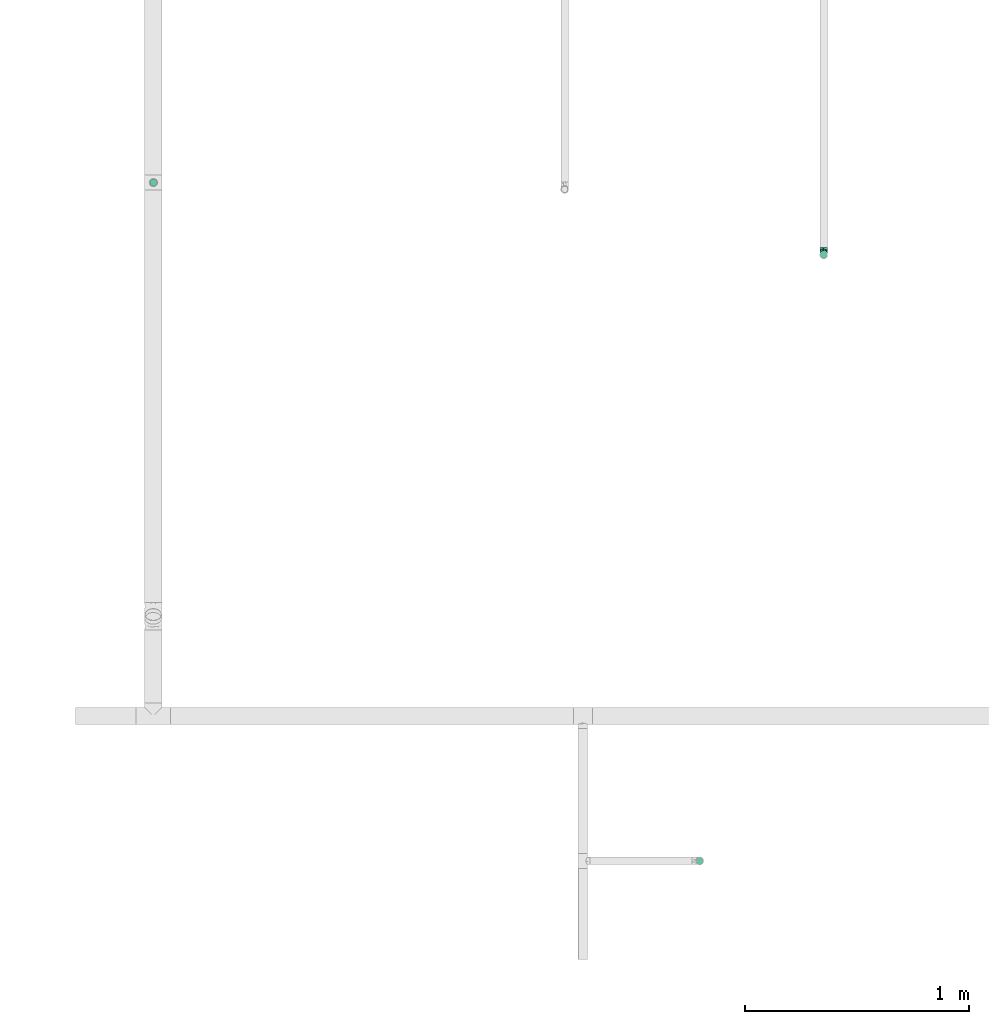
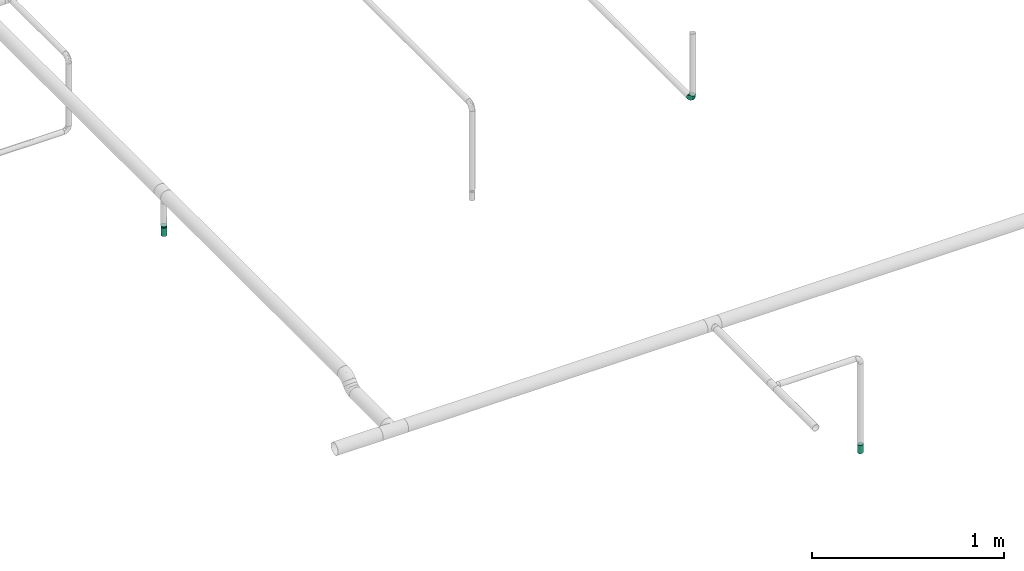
# One storey, part 38 of 95: 2 flow fittings, 2 flow terminals.
"""IFC2X3 building model written with IfcOpenShell, lengths in millimetres."""

import ifcopenshell
import ifcopenshell.guid

model = None  # the IFC model being written
_history = None  # IfcOwnerHistory: only IFC2X3 demands one
_inside = {}  # id of a spatial element -> (the spatial element, [elements in it])
_under = {}  # id of a project, library or spatial element -> (it, [spatial elements below it])
_declared = {}  # id of a project -> (the project, [libraries it declares])
_typed = {}  # id of a type object -> (the type object, [elements of that type])
_made_of = {}  # id of a material, layer set ... -> (it, [elements and type objects made of it])


def new_model(schema):
    """Start an empty IFC model of exactly this schema.

    Asked for "IFC4X3", IfcOpenShell would pick the latest addendum, in which some entities
    have other attributes; the version numbers below select the first issue.
    IFC2X3 requires an IfcOwnerHistory on every rooted entity: one is made here for all.
    """
    global model, _history
    if schema == "IFC4X3":
        model = ifcopenshell.file(schema_version=(4, 3, 0, 0))
    else:
        model = ifcopenshell.file(schema=schema)
    _inside.clear()
    _under.clear()
    _declared.clear()
    _typed.clear()
    _made_of.clear()
    _history = None
    if model.schema == "IFC2X3":
        org = make("IfcOrganization", Name="unknown")
        user = make(
            "IfcPersonAndOrganization",
            ThePerson=make("IfcPerson", FamilyName="unknown"),
            TheOrganization=org,
        )
        app = make(
            "IfcApplication",
            ApplicationDeveloper=org,
            Version="unknown",
            ApplicationFullName="unknown",
            ApplicationIdentifier="unknown",
        )
        _history = make(
            "IfcOwnerHistory",
            OwningUser=user,
            OwningApplication=app,
            ChangeAction="ADDED",
            CreationDate=0,
        )
    return model


def make(cls, **values):
    """One entity of the class cls with the attributes given. An attribute that is None is left unset."""
    return model.create_entity(
        cls, **{name: value for name, value in values.items() if value is not None}
    )


def entity(cls, *values):
    """Any entity or typed value of the class cls, its attributes in the order of the schema. None: left unset."""
    e = model.create_entity(cls)
    for i, value in enumerate(values):
        if value is not None:
            e[i] = value
    return e


def rooted(cls, **values):
    """An entity with a GlobalId (a new one), such as an element, a storey or a relation."""
    return make(cls, GlobalId=ifcopenshell.guid.new(), OwnerHistory=_history, **values)


def si_unit(unit_type, name, prefix=None):
    """IfcSIUnit, for example si_unit("LENGTHUNIT", "METRE", prefix="MILLI")."""
    return make("IfcSIUnit", UnitType=unit_type, Prefix=prefix, Name=name)


def converted_unit(unit_type, name, factor, base, dimensions=None, offset=None):
    """IfcConversionBasedUnit, such as the inch: factor (a typed value) times the base unit."""
    return make(
        "IfcConversionBasedUnit"
        if offset is None
        else "IfcConversionBasedUnitWithOffset",
        ConversionOffset=offset,
        Dimensions=None
        if dimensions is None
        else entity("IfcDimensionalExponents", *dimensions),
        UnitType=unit_type,
        Name=name,
        ConversionFactor=make(
            "IfcMeasureWithUnit", ValueComponent=factor, UnitComponent=base
        ),
    )


def derived_unit(unit_type, elements):
    """IfcDerivedUnit: a product of units, each with its exponent."""
    return make(
        "IfcDerivedUnit",
        Elements=[
            make("IfcDerivedUnitElement", Unit=unit, Exponent=power)
            for unit, power in elements
        ],
        UnitType=unit_type,
    )


def assignment(units):
    """IfcUnitAssignment: the units of a project."""
    return None if units is None else make("IfcUnitAssignment", Units=units)


def point(xyz):
    """IfcCartesianPoint."""
    return None if xyz is None else make("IfcCartesianPoint", Coordinates=xyz)


def direction(xyz):
    """IfcDirection."""
    return None if xyz is None else make("IfcDirection", DirectionRatios=xyz)


def frame(location, z_axis=None, x_axis=None):
    """IfcAxis2Placement3D, a coordinate frame: its origin and axes. An axis left out is left unset."""
    return make(
        "IfcAxis2Placement3D",
        Location=point(location),
        Axis=direction(z_axis),
        RefDirection=direction(x_axis),
    )


def origin_with_axes():
    """The frame at (0, 0, 0) with the z axis (0, 0, 1) and the x axis (1, 0, 0) written out."""
    return frame((0.0, 0.0, 0.0), z_axis=(0.0, 0.0, 1.0), x_axis=(1.0, 0.0, 0.0))


def place(relative_to, where):
    """IfcLocalPlacement: puts the frame where relative to a parent placement (None: the world)."""
    return make(
        "IfcLocalPlacement", PlacementRelTo=relative_to, RelativePlacement=where
    )


def context(
    kind, dimensions, precision=None, world=None, true_north=None, identifier=None
):
    """IfcGeometricRepresentationContext, for example the 3D "Model" context."""
    return make(
        "IfcGeometricRepresentationContext",
        ContextIdentifier=identifier,
        ContextType=kind,
        CoordinateSpaceDimension=dimensions,
        Precision=precision,
        WorldCoordinateSystem=world,
        TrueNorth=true_north,
    )


def subcontext(parent, identifier, kind, view, scale=None):
    """IfcGeometricRepresentationSubContext, for example "Body" below "Model"."""
    return make(
        "IfcGeometricRepresentationSubContext",
        ContextIdentifier=identifier,
        ContextType=kind,
        ParentContext=parent,
        TargetScale=scale,
        TargetView=view,
    )


def project(units=None, contexts=None):
    """IfcProject with its units and contexts."""
    return rooted(
        "IfcProject",
        Name="project",
        RepresentationContexts=contexts,
        UnitsInContext=assignment(units),
    )


def spatial(cls, under=None, at=None, **own):
    """A site, building, storey or space (cls), placed at a placement, below another one or the project."""
    s = rooted(cls, ObjectPlacement=at, **own)
    if under is not None:
        _under.setdefault(under.id(), (under, []))[1].append(s)
    return s


def faces_of(points, faces, orient=None, outer=None):
    """IfcFace entities. A face is a list of loops; a loop is a list of indices into points, from 0.

    orient and outer hold one flag for each loop. By default every Orientation is true, the
    first loop of a face is its IfcFaceOuterBound and the others are IfcFaceBound.
    """
    made = []
    for i, loops in enumerate(faces):
        bounds = []
        for j, loop in enumerate(loops):
            is_outer = j == 0 if outer is None else outer[i][j]
            bounds.append(
                make(
                    "IfcFaceOuterBound" if is_outer else "IfcFaceBound",
                    Bound=make("IfcPolyLoop", Polygon=[points[k] for k in loop]),
                    Orientation=True if orient is None else orient[i][j],
                )
            )
        made.append(make("IfcFace", Bounds=bounds))
    return made


def open_shell(faces, orient=None, outer=None):
    """The faces of one IfcOpenShell. surface_model builds it on its shared points."""
    return ("IfcOpenShell", faces, orient, outer)


def surface_model(cls, points, shells):
    """IfcFaceBasedSurfaceModel or IfcShellBasedSurfaceModel (cls): surfaces that need not close."""
    shared = [point(p) for p in points]
    made = [make(c, CfsFaces=faces_of(shared, fs, o, b)) for c, fs, o, b in shells]
    if cls == "IfcFaceBasedSurfaceModel":
        return make(cls, FbsmFaces=made)
    return make(cls, SbsmBoundary=made)


def shape(context_of_items, identifier, shape_type, items):
    """IfcShapeRepresentation: the items that make up one representation, for example the "Body"."""
    return make(
        "IfcShapeRepresentation",
        ContextOfItems=context_of_items,
        RepresentationIdentifier=identifier,
        RepresentationType=shape_type,
        Items=items,
    )


def source(mapping_origin, context_of_items, identifier, shape_type, items):
    """IfcRepresentationMap: a shape defined once, which mapped items show again and again."""
    return make(
        "IfcRepresentationMap",
        MappingOrigin=mapping_origin,
        MappedRepresentation=shape(context_of_items, identifier, shape_type, items),
    )


def transform(
    local_origin,
    x_axis=None,
    y_axis=None,
    z_axis=None,
    scale=None,
    scale2=None,
    scale3=None,
    uniform=True,
):
    """IfcCartesianTransformationOperator3D, or its non-uniform kind. x_axis, y_axis, z_axis: its Axis1, 2, 3."""
    if uniform:
        return make(
            "IfcCartesianTransformationOperator3D",
            Axis1=direction(x_axis),
            Axis2=direction(y_axis),
            LocalOrigin=point(local_origin),
            Scale=scale,
            Axis3=direction(z_axis),
        )
    return make(
        "IfcCartesianTransformationOperator3DnonUniform",
        Axis1=direction(x_axis),
        Axis2=direction(y_axis),
        LocalOrigin=point(local_origin),
        Scale=scale,
        Axis3=direction(z_axis),
        Scale2=scale2,
        Scale3=scale3,
    )


def mapped(mapping_source, mapping_target):
    """IfcMappedItem: shows the shape of a source again, moved by a transform."""
    return make(
        "IfcMappedItem", MappingSource=mapping_source, MappingTarget=mapping_target
    )


def made_of(thing, what):
    """Note that an element or type object is made of a material, layer set ...; save() writes the relation."""
    if what is not None:
        _made_of.setdefault(what.id(), (what, []))[1].append(thing)
    return thing


def type_object(cls, material=None, **own):
    """A type object (cls), such as IfcWallType, which elements share."""
    return made_of(rooted(cls, **own), material)


def element(
    cls,
    number,
    at=None,
    inside=None,
    cuts=None,
    type_object=None,
    material=None,
    context=None,
    identifier="Body",
    shape_type=None,
    held_by="IfcProductDefinitionShape",
    body=None,
    shapes=None,
    **own,
):
    """One element of the class cls, such as IfcWall. Its Tag is "e" and its number.

    at: its placement. inside: the storey or other place that contains it. cuts: it is an
    opening in that element (IfcRelVoidsElement). A single representation is given by context,
    identifier, shape_type and body (its items); several are given by shapes. held_by: the class
    of the entity that holds the representations. save() writes the other relations.
    """
    e = rooted(cls, Tag="e%d" % number, ObjectPlacement=at, **own)
    if body is not None:
        shapes = [shape(context, identifier, shape_type, body)]
    if shapes is not None:
        e.Representation = make(held_by, Representations=shapes)
    if inside is not None:
        _inside.setdefault(inside.id(), (inside, []))[1].append(e)
    if cuts is not None:
        rooted(
            "IfcRelVoidsElement", RelatingBuildingElement=cuts, RelatedOpeningElement=e
        )
    if type_object is not None:
        _typed.setdefault(type_object.id(), (type_object, []))[1].append(e)
    return made_of(e, material)


def aggregate(whole, parts):
    """IfcRelAggregates: a whole, such as a stair, and the parts it consists of."""
    return rooted("IfcRelAggregates", RelatingObject=whole, RelatedObjects=parts)


def save(model, path):
    """Write the relations noted so far, then the file.

    IfcRelAggregates (storeys below a building ...), IfcRelContainedInSpatialStructure (elements
    in a storey), IfcRelDefinesByType, IfcRelAssociatesMaterial and IfcRelDeclares: one each for
    every whole, place, type object, material and project.
    """
    for whole, parts in _under.values():
        aggregate(whole, parts)
    for where, things in _inside.values():
        rooted(
            "IfcRelContainedInSpatialStructure",
            RelatedElements=things,
            RelatingStructure=where,
        )
    for kind, things in _typed.values():
        rooted("IfcRelDefinesByType", RelatedObjects=things, RelatingType=kind)
    for what, things in _made_of.values():
        rooted("IfcRelAssociatesMaterial", RelatedObjects=things, RelatingMaterial=what)
    for by, libraries in _declared.values():
        rooted("IfcRelDeclares", RelatingContext=by, RelatedDefinitions=libraries)
    model.write(path)


model = new_model("IFC2X3")

# Units and contexts
model_context = context("Model", 3, precision=0.01, world=frame((0.0, 4.29681676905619e-09, 0.0)), true_north=direction((4.01073788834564e-13, 1.0)))
plan_context = context("Plan", 3, precision=0.01, world=frame((0.0, 4.29681676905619e-09, 0.0)), true_north=direction((4.01073788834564e-13, 1.0)))
body_context = subcontext(model_context, "Body", "Model", "MODEL_VIEW")
ifc_project = project(units=[converted_unit("PLANEANGLEUNIT", "DEGREE", entity("IfcPositiveLengthMeasure", 0.0174532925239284), si_unit("PLANEANGLEUNIT", "RADIAN"), dimensions=[0, 0, 0, 0, 0, 0, 0]), si_unit("AREAUNIT", "SQUARE_METRE"), si_unit("LENGTHUNIT", "METRE", prefix="MILLI"), si_unit("MASSUNIT", "GRAM", prefix="KILO"), si_unit("POWERUNIT", "WATT"), si_unit("PRESSUREUNIT", "PASCAL"), si_unit("FORCEUNIT", "NEWTON", prefix="KILO"), si_unit("ELECTRICVOLTAGEUNIT", "VOLT"), si_unit("ELECTRICCURRENTUNIT", "AMPERE"), si_unit("THERMODYNAMICTEMPERATUREUNIT", "DEGREE_CELSIUS"), si_unit("TIMEUNIT", "SECOND"), si_unit("VOLUMEUNIT", "CUBIC_METRE"), derived_unit("LINEARVELOCITYUNIT", [(si_unit("LENGTHUNIT", "METRE"), 1), (si_unit("TIMEUNIT", "SECOND"), -1)]), derived_unit("VOLUMETRICFLOWRATEUNIT", [(si_unit("VOLUMEUNIT", "CUBIC_METRE"), 1), (si_unit("TIMEUNIT", "SECOND"), -1)]), derived_unit("THERMALTRANSMITTANCEUNIT", [(si_unit("POWERUNIT", "WATT"), 1), (si_unit("THERMODYNAMICTEMPERATUREUNIT", "KELVIN"), -1), (si_unit("AREAUNIT", "SQUARE_METRE"), -1)]), derived_unit("SOUNDPRESSUREUNIT", [(si_unit("PRESSUREUNIT", "PASCAL"), 1)])], contexts=[model_context, plan_context])

# Site, building, storey
site_placement = place(None, frame((0.0, -4.29681676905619e-09, 0.0), z_axis=(0.0, 0.0, 1.0), x_axis=(1.0, 0.0, 0.0)))
site = spatial("IfcSite", under=ifc_project, at=site_placement, CompositionType="ELEMENT")
building_placement = place(site_placement, frame((0.0, 4.29681676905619e-09, 0.0), z_axis=(0.0, 0.0, 1.0), x_axis=(1.0, 0.0, 0.0)))
building = spatial("IfcBuilding", under=site, at=building_placement, Name="mc-building", CompositionType="ELEMENT")
storey_placement = place(building_placement, frame((0.0, 0.0, 210900.0), z_axis=(0.0, 0.0, 1.0), x_axis=(1.0, 0.0, 0.0)))
storey = spatial("IfcBuildingStorey", under=building, at=storey_placement, Name="Nivå F", CompositionType="ELEMENT", Elevation=210900.0)

# Flow fittings
pipe_fitting_type_1 = type_object("IfcPipeFittingType", Name="magi_pipe_fe_reducer_centric_short_NOR", PredefinedType="TRANSITION")
shared_shape_1 = source(origin_with_axes(), body_context, "Body", "SurfaceModel", [
    surface_model("IfcShellBasedSurfaceModel", [(14.4, 5.35, -9.26647), (14.4, 0.0, -10.7), (14.4, 2.76936, -10.33541), (14.4, 10.33541, -2.76936), (14.4, 7.56604, -7.56604), (14.4, -10.33541, -2.76936), (14.4, 9.26647, -5.35), (14.4, 0.0, 10.7), (14.4, -5.35, -9.26647), (14.4, -2.76936, -10.33541), (14.4, -7.56604, -7.56604), (14.4, -9.26647, -5.35), (14.4, 10.7, 0.0), (14.4, 10.33541, 2.76936), (14.4, 9.26647, 5.35), (14.4, 7.56604, 7.56604), (14.4, 2.76936, 10.33541), (14.4, 5.35, 9.26647), (14.4, -10.33541, 2.76936), (14.4, -7.56604, 7.56604), (14.4, -9.26647, 5.35), (14.4, -10.7, 0.0), (14.4, -2.76936, 10.33541), (14.4, -5.35, 9.26647), (12.4, 2.76936, 10.33541), (12.4, -10.33541, -2.76936), (12.4, 0.0, 10.7), (12.4, 5.35, 9.26647), (12.4, 7.56604, 7.56604), (12.4, 9.26647, 5.35), (12.4, 10.33541, 2.76936), (12.4, -10.33541, 2.76936), (12.4, -2.76936, 10.33541), (12.4, -7.56604, 7.56604), (12.4, -5.35, 9.26647), (12.4, -9.26647, 5.35), (12.4, -10.7, 0.0), (12.4, 10.33541, -2.76936), (12.4, 5.35, -9.26647), (12.4, 9.26647, -5.35), (12.4, 7.56604, -7.56604), (12.4, 2.76936, -10.33541), (12.4, -9.26647, -5.35), (12.4, -5.35, -9.26647), (12.4, -7.56604, -7.56604), (12.4, 0.0, -10.7), (12.4, -2.76936, -10.33541), (12.4, 10.7, 0.0), (-2.0, 11.9501, 11.9501), (-2.0, 0.0, 16.9), (-2.0, 4.37404, 16.32415), (-2.0, 8.45, 14.63583), (-2.0, 14.63583, 8.45), (-2.0, 16.32415, 4.37404), (-2.0, -16.32415, 4.37404), (-2.0, -8.45, 14.63583), (-2.0, -14.63583, 8.45), (-2.0, -11.9501, 11.9501), (-2.0, -4.37404, 16.32415), (-2.0, -16.32415, -4.37404), (-2.0, -16.9, 0.0), (-2.0, -8.45, -14.63583), (-2.0, 16.32415, -4.37404), (-2.0, 11.9501, -11.9501), (-2.0, 14.63583, -8.45), (-2.0, 8.45, -14.63583), (-2.0, 4.37404, -16.32415), (-2.0, 0.0, -16.9), (-2.0, -11.9501, -11.9501), (-2.0, -14.63583, -8.45), (-2.0, -4.37404, -16.32415), (-2.0, 16.9, 0.0), (0.0, 4.37404, -16.32415), (0.0, 8.45, -14.63583), (0.0, 11.9501, -11.9501), (0.0, 0.0, -16.9), (0.0, 16.32415, -4.37404), (0.0, 16.32415, 4.37404), (0.0, 14.63583, -8.45), (0.0, -8.45, -14.63583), (0.0, -4.37404, -16.32415), (0.0, -11.9501, -11.9501), (0.0, -16.32415, -4.37404), (0.0, -14.63583, -8.45), (0.0, -16.32415, 4.37404), (0.0, 16.9, 0.0), (0.0, 14.63583, 8.45), (0.0, 11.9501, 11.9501), (0.0, 4.37404, 16.32415), (0.0, 8.45, 14.63583), (0.0, 0.0, 16.9), (0.0, -14.63583, 8.45), (0.0, -16.9, 0.0), (0.0, -8.45, 14.63583), (0.0, -11.9501, 11.9501), (0.0, -4.37404, 16.32415), (12.4, 9.3625, -2.31662), (0.0, 14.42505, -5.97505), (0.0, 15.66253, -2.98753), (12.4, -6.6875, -6.94985), (0.0, -13.18758, -8.96258), (0.0, 2.98753, -15.66253), (12.4, 0.0, -9.26647), (12.4, 6.6875, -6.94985), (0.0, 8.96258, -13.18758), (12.4, -9.3625, -2.31662), (0.0, -15.66253, -2.98753), (0.0, -14.42505, -5.97505), (0.0, 5.97505, -14.42505), (0.0, -2.98753, -15.66253), (0.0, -8.96258, -13.18758), (0.0, 13.18758, -8.96258), (12.4, 8.025, -4.63324), (12.4, -2.675, -9.26647), (12.4, 2.675, -9.26647), (0.0, -5.97505, -14.42505), (12.4, -8.025, -4.63324), (12.4, -9.3625, 2.31662), (0.0, -14.42505, 5.97505), (0.0, -15.66253, 2.98753), (12.4, 6.6875, 6.94985), (0.0, 13.18758, 8.96258), (0.0, -2.98753, 15.66253), (12.4, 0.0, 9.26647), (12.4, -6.6875, 6.94985), (0.0, -8.96258, 13.18758), (12.4, 9.3625, 2.31662), (0.0, 15.66253, 2.98753), (0.0, 14.42505, 5.97505), (0.0, -5.97505, 14.42505), (0.0, 2.98753, 15.66253), (0.0, 8.96258, 13.18758), (0.0, -13.18758, 8.96258), (12.4, -8.025, 4.63324), (12.4, 2.675, 9.26647), (12.4, -2.675, 9.26647), (0.0, 5.97505, 14.42505), (12.4, 8.025, 4.63324)], [open_shell([[[0, 1, 2]], [[3, 0, 4]], [[5, 0, 3]], [[3, 4, 6]], [[7, 5, 3]], [[1, 8, 9]], [[1, 0, 8]], [[10, 5, 11]], [[5, 10, 8]], [[0, 5, 8]], [[3, 12, 13]], [[13, 14, 15]], [[13, 15, 16]], [[7, 3, 16]], [[16, 15, 17]], [[7, 18, 5]], [[18, 19, 20]], [[21, 5, 18]], [[19, 22, 23]], [[22, 19, 18]], [[7, 22, 18]], [[13, 16, 3]], [[24, 25, 26]], [[27, 25, 24]], [[28, 29, 30]], [[28, 25, 27]], [[31, 26, 25]], [[32, 33, 34]], [[33, 32, 31]], [[33, 31, 35]], [[32, 26, 31]], [[31, 25, 36]], [[30, 37, 28]], [[25, 28, 37]], [[38, 37, 39]], [[37, 38, 25]], [[38, 39, 40]], [[41, 25, 38]], [[42, 43, 44]], [[43, 42, 25]], [[43, 45, 46]], [[43, 25, 41]], [[41, 45, 43]], [[37, 30, 47]], [[25, 5, 36]], [[42, 11, 25]], [[8, 44, 43]], [[42, 44, 10]], [[9, 43, 46]], [[25, 11, 5]], [[5, 21, 36]], [[9, 8, 43]], [[10, 44, 8]], [[10, 11, 42]], [[1, 9, 46]], [[46, 45, 1]], [[41, 2, 45]], [[38, 0, 41]], [[6, 40, 39]], [[38, 40, 4]], [[3, 39, 37]], [[38, 4, 0]], [[0, 2, 41]], [[12, 3, 37]], [[6, 39, 3]], [[6, 4, 40]], [[47, 12, 37]], [[45, 2, 1]], [[30, 13, 47]], [[29, 14, 30]], [[17, 28, 27]], [[29, 28, 15]], [[16, 27, 24]], [[30, 14, 13]], [[13, 12, 47]], [[16, 17, 27]], [[15, 28, 17]], [[15, 14, 29]], [[7, 16, 24]], [[24, 26, 7]], [[32, 22, 26]], [[34, 23, 32]], [[20, 33, 35]], [[34, 33, 19]], [[18, 35, 31]], [[34, 19, 23]], [[23, 22, 32]], [[21, 18, 31]], [[20, 35, 18]], [[20, 19, 33]], [[36, 21, 31]], [[26, 22, 7]], [[48, 49, 50]], [[48, 50, 51]], [[48, 52, 53]], [[48, 53, 49]], [[49, 53, 54]], [[55, 56, 57]], [[55, 58, 49]], [[56, 55, 49]], [[49, 54, 56]], [[54, 59, 60]], [[54, 53, 61]], [[53, 62, 63]], [[63, 62, 64]], [[63, 65, 66]], [[61, 53, 63]], [[67, 63, 66]], [[59, 68, 69]], [[68, 59, 61]], [[61, 67, 70]], [[59, 54, 61]], [[63, 67, 61]], [[53, 71, 62]], [[72, 73, 74]], [[75, 72, 74]], [[74, 76, 77]], [[76, 74, 78]], [[74, 77, 79]], [[75, 79, 80]], [[75, 74, 79]], [[81, 82, 83]], [[82, 81, 79]], [[79, 84, 82]], [[77, 76, 85]], [[77, 86, 87]], [[77, 87, 88]], [[88, 84, 79]], [[88, 87, 89]], [[84, 88, 90]], [[90, 91, 84]], [[92, 82, 84]], [[91, 93, 94]], [[91, 90, 93]], [[93, 90, 95]], [[79, 77, 88]], [[59, 82, 60]], [[69, 83, 59]], [[79, 68, 61]], [[69, 68, 81]], [[80, 61, 70]], [[59, 83, 82]], [[82, 92, 60]], [[80, 79, 61]], [[81, 68, 79]], [[81, 83, 69]], [[75, 80, 70]], [[70, 67, 75]], [[66, 72, 67]], [[65, 73, 66]], [[78, 63, 64]], [[65, 63, 74]], [[76, 64, 62]], [[65, 74, 73]], [[73, 72, 66]], [[85, 76, 62]], [[78, 64, 76]], [[78, 74, 63]], [[71, 85, 62]], [[67, 72, 75]], [[53, 77, 71]], [[52, 86, 53]], [[89, 48, 51]], [[52, 48, 87]], [[88, 51, 50]], [[53, 86, 77]], [[77, 85, 71]], [[88, 89, 51]], [[87, 48, 89]], [[87, 86, 52]], [[90, 88, 50]], [[50, 49, 90]], [[58, 95, 49]], [[55, 93, 58]], [[91, 57, 56]], [[55, 57, 94]], [[84, 56, 54]], [[55, 94, 93]], [[93, 95, 58]], [[92, 84, 54]], [[91, 56, 84]], [[91, 94, 57]], [[60, 92, 54]], [[49, 95, 90]], [[27, 34, 47]], [[47, 34, 43]], [[43, 38, 47]], [[43, 34, 36]], [[90, 87, 94]], [[92, 94, 87]], [[87, 74, 92]], [[75, 92, 74]], [[81, 92, 75]], [[74, 87, 85]], [[96, 97, 98]], [[81, 99, 100]], [[101, 102, 75]], [[98, 85, 47]], [[74, 103, 104]], [[104, 103, 38]], [[105, 106, 107]], [[38, 108, 104]], [[102, 109, 75]], [[110, 99, 81]], [[47, 96, 98]], [[103, 111, 112]], [[109, 102, 113]], [[36, 92, 106]], [[102, 101, 114]], [[110, 115, 43]], [[96, 112, 97]], [[107, 116, 105]], [[36, 106, 105]], [[113, 115, 109]], [[43, 115, 113]], [[116, 107, 100]], [[108, 38, 114]], [[111, 103, 74]], [[111, 97, 112]], [[99, 110, 43]], [[116, 100, 99]], [[101, 108, 114]], [[117, 118, 119]], [[87, 120, 121]], [[122, 123, 90]], [[119, 92, 36]], [[94, 124, 125]], [[125, 124, 34]], [[126, 127, 128]], [[34, 129, 125]], [[123, 130, 90]], [[131, 120, 87]], [[36, 117, 119]], [[124, 132, 133]], [[130, 123, 134]], [[47, 85, 127]], [[123, 122, 135]], [[131, 136, 27]], [[117, 133, 118]], [[128, 137, 126]], [[47, 127, 126]], [[134, 136, 130]], [[27, 136, 134]], [[137, 128, 121]], [[129, 34, 135]], [[132, 124, 94]], [[132, 118, 133]], [[120, 131, 27]], [[137, 121, 120]], [[122, 129, 135]]])]),
])
flow_fitting_1_placement = place(storey_placement, frame((520866.22047, 444238.4375, 4166.69941999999), z_axis=(0.999956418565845, 0.0, 0.00933600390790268), x_axis=(0.00933600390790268, 0.0, -0.999956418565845)))
element("IfcFlowFitting", 1, at=flow_fitting_1_placement, inside=storey, type_object=pipe_fitting_type_1, Name="magi_pipe_fe_reducer_centric_short_NOR", context=body_context, shape_type="MappedRepresentation", body=[
    mapped(shared_shape_1, transform((0.0, 0.0, 0.0), scale=1.0)),
])
pipe_fitting_type_2 = type_object("IfcPipeFittingType", Name="magi_pipe_fe_elbow_short_001", PredefinedType="BEND")
shared_shape_2 = source(origin_with_axes(), body_context, "Body", "SurfaceModel", [
    surface_model("IfcShellBasedSurfaceModel", [(-33.8, 8.45, -14.63583), (-33.8, 4.37404, -16.32415), (-33.8, 11.9501, -11.9501), (-33.8, -11.9501, -11.9501), (-33.8, -14.63583, -8.45), (-33.8, -8.45, -14.63583), (-33.8, 0.0, -16.9), (-33.8, -4.37404, -16.32415), (-33.8, -4.37404, 16.32415), (-33.8, 0.0, 16.9), (-33.8, -8.45, 14.63583), (-33.8, 16.32415, -4.37404), (-33.8, 14.63583, -8.45), (-33.8, -16.32415, -4.37404), (-33.8, -16.9, 0.0), (-33.8, -16.32415, 4.37404), (-33.8, 11.9501, 11.9501), (-33.8, 14.63583, 8.45), (-33.8, 16.32415, 4.37404), (-33.8, 4.37404, 16.32415), (-33.8, 8.45, 14.63583), (-33.8, -14.63583, 8.45), (-33.8, -11.9501, 11.9501), (-33.8, 16.9, 0.0), (-11.9501, 33.8, -11.9501), (0.0, 33.8, -16.9), (-4.37404, 33.8, -16.32415), (-8.45, 33.8, -14.63583), (-14.63583, 33.8, -8.45), (-16.32415, 33.8, -4.37404), (14.63583, 33.8, -8.45), (8.45, 33.8, 14.63583), (16.32415, 33.8, -4.37404), (8.45, 33.8, -14.63583), (11.9501, 33.8, -11.9501), (4.37404, 33.8, -16.32415), (16.32415, 33.8, 4.37404), (16.9, 33.8, 0.0), (-11.9501, 33.8, 11.9501), (-16.32415, 33.8, 4.37404), (-14.63583, 33.8, 8.45), (-8.45, 33.8, 14.63583), (-4.37404, 33.8, 16.32415), (11.9501, 33.8, 11.9501), (14.63583, 33.8, 8.45), (0.0, 33.8, 16.9), (4.37404, 33.8, 16.32415), (-16.9, 33.8, 0.0), (-24.79389, -13.12945, 9.48721), (-22.19287, -9.75018, 12.59315), (-24.09897, -14.97035, 0.0), (-14.93934, -10.76256, 8.5297), (-22.46095, -14.75051, 5.27077), (14.75051, 22.46094, 5.27077), (11.9251, 13.23888, 4.33236), (13.04069, 14.39795, 0.0), (7.71387, 13.68847, 11.55891), (9.75018, 22.19287, 12.59315), (4.10169, 13.0571, 14.04018), (-24.84007, -6.39063, 15.2048), (-25.81779, -2.23879, 16.61097), (-23.66549, 2.59054, 16.87119), (-26.50418, 14.06512, 11.08152), (-24.21253, 17.66365, 7.72657), (-29.58514, 15.86957, 7.00283), (-6.17382, -7.5455, 0.0), (-13.23888, -11.9251, 4.33236), (-14.39795, -13.04069, 0.0), (-17.81434, 18.87373, 11.97104), (-6.30846, 29.15138, 15.82987), (-2.31622, 25.28002, 16.85849), (-29.23923, 10.23435, 13.77053), (-1.45439, -2.85688, 7.61475), (-0.28326, 0.34872, 10.09509), (-5.74484, -4.04709, 10.4122), (-4.41137, 11.31918, 16.59407), (-8.39727, 3.10034, 15.7812), (-1.72649, 9.1306, 15.53089), (-17.39909, 24.75344, 7.64977), (-26.19233, 20.0512, 0.0), (-28.14518, 17.29657, 4.25857), (-26.05147, 6.6281, 15.96447), (-5.87354, 16.61944, 16.86968), (-12.51807, 12.51807, 16.48937), (-10.06312, 7.38516, 16.81295), (-3.01882, 3.01882, 13.81718), (-13.0571, -4.10169, 14.04018), (-16.82553, -0.15166, 16.38038), (10.76256, 14.93934, 8.5297), (13.12945, 24.79389, 9.48721), (6.39063, 24.84007, 15.2048), (2.23879, 25.81779, 16.61097), (-13.68847, -7.71387, 11.55891), (14.97035, 24.09897, 0.0), (-7.30894, 22.89991, 16.09489), (-10.67958, 26.17414, 14.008), (-12.78295, 18.26924, 15.06066), (-13.88562, 22.45231, 12.93244), (-18.04944, 15.16501, 14.04434), (-23.11658, 20.08178, 4.02986), (-21.84989, 21.84989, 0.0), (-18.55817, 25.48277, 3.93065), (-13.95142, 26.94732, 11.03289), (-18.57098, 7.23906, 16.59756), (-16.58335, 4.14122, 16.89279), (-17.96666, 11.46709, 15.63151), (-9.84453, 17.54304, 16.18938), (0.15166, 16.82553, 16.38038), (-23.27207, 11.47201, 14.23154), (3.84842, 5.86994, 10.70473), (-8.0212, -7.54413, 7.93275), (1.00345, -2.19508, 4.57414), (5.13203, 3.01004, 5.90201), (5.24161, 1.7543, 2.53265), (8.70457, 7.04947, 3.99182), (-20.0512, 26.19233, 0.0), (8.4852, 8.76699, 7.09296), (-4.55488, -6.72064, 4.90681), (2.05031, -2.05031, 0.0), (7.5455, 6.17382, 0.0), (-26.75399, 2.1369, -16.845), (-14.61995, 24.73803, -11.27736), (-28.45274, -13.45335, -9.81895), (-26.00469, 6.63555, -15.96645), (-23.06726, 20.04573, -4.26202), (-13.80647, -4.26506, -14.17873), (-14.67501, -0.21081, -16.07388), (-6.7902, -0.2828, -13.8478), (-24.53586, 11.08096, -14.13417), (-26.72048, 14.00837, -11.05776), (10.0967, 24.44989, -12.75976), (5.83237, 21.40218, -15.03047), (6.66249, 28.54238, -15.38093), (-20.38182, 15.48705, -12.74596), (12.53268, 21.23441, -9.15363), (12.54494, 15.67504, -5.54878), (9.7522, 12.89279, -8.66343), (-15.65186, 19.64213, -13.01327), (-12.03528, 20.66498, -14.67665), (-15.61907, 15.61906, -14.83879), (-25.56551, -15.26206, 0.0), (-24.65452, -15.12934, -5.50955), (13.45335, 28.45274, -9.81895), (15.12934, 24.65452, -5.50955), (-7.35442, -8.31014, -5.65563), (-15.67504, -12.54494, -5.54878), (-24.44989, -10.0967, -12.75976), (0.16522, 0.41303, -9.71728), (-5.70658, -5.33066, -8.89288), (-5.13869, -2.37198, -11.53565), (-21.23441, -12.53268, -9.15363), (0.71146, 7.93863, -14.09382), (0.21081, 14.67501, -16.07388), (3.49291, 14.42772, -14.76381), (-24.89911, -2.13088, -16.591), (-28.54238, -6.66249, -15.38093), (-18.44386, -7.71663, -13.26957), (2.13088, 24.89911, -16.591), (-28.64342, 17.44413, -2.89318), (1.70017, -1.28722, -5.09504), (-16.57067, 26.81947, -7.36596), (-17.69055, 27.4263, -3.76405), (-12.89279, -9.7522, -8.66343), (-5.96611, 5.96611, -15.95814), (-20.53709, 20.09345, -8.28985), (-2.1369, 26.75399, -16.845), (-6.89872, 24.58781, -16.02578), (-10.60739, 26.53157, -13.98044), (-21.40218, -5.83237, -15.03047), (2.93192, 5.89627, -11.55917), (6.89393, 12.61842, -11.82233), (5.58056, 5.95325, -8.79455), (-3.99512, 18.61798, -16.89635), (8.31014, 7.35442, -5.65563), (-9.1383, 9.86148, -16.89041), (-9.99983, 16.02119, -16.39699), (-16.68576, 9.78031, -16.34199), (-27.01915, 16.61158, -7.12979), (15.26206, 25.56551, 0.0), (-18.61798, 3.99512, -16.89635), (-19.37495, 27.82495, 0.0), (-12.61842, -6.89393, -11.82233), (-18.84705, 19.14018, -10.96545)], [open_shell([[[0, 1, 2]], [[3, 4, 5]], [[6, 7, 5]], [[8, 9, 10]], [[1, 6, 2]], [[11, 12, 2]], [[4, 2, 6]], [[2, 13, 10]], [[5, 4, 6]], [[2, 4, 13]], [[14, 15, 13]], [[11, 2, 16]], [[11, 17, 18]], [[11, 16, 17]], [[19, 20, 16]], [[16, 2, 10]], [[19, 16, 10]], [[21, 22, 15]], [[22, 13, 15]], [[22, 10, 13]], [[10, 9, 19]], [[11, 18, 23]], [[24, 25, 26]], [[24, 26, 27]], [[24, 28, 29]], [[25, 24, 30]], [[31, 32, 24]], [[33, 30, 34]], [[33, 35, 25]], [[25, 30, 33]], [[32, 30, 24]], [[32, 36, 37]], [[38, 24, 29]], [[39, 40, 29]], [[40, 38, 29]], [[38, 41, 42]], [[38, 31, 24]], [[31, 38, 42]], [[36, 43, 44]], [[36, 32, 43]], [[31, 45, 46]], [[32, 31, 43]], [[42, 45, 31]], [[39, 29, 47]], [[22, 48, 49]], [[15, 14, 50]], [[51, 48, 52]], [[53, 54, 55]], [[48, 22, 21]], [[15, 52, 21]], [[56, 57, 58]], [[49, 10, 22]], [[49, 59, 10]], [[9, 60, 61]], [[62, 63, 64]], [[65, 66, 67]], [[57, 43, 31]], [[62, 68, 63]], [[42, 69, 70]], [[20, 71, 16]], [[8, 60, 9]], [[72, 73, 74]], [[75, 76, 77]], [[16, 62, 17]], [[40, 39, 78]], [[79, 23, 80]], [[64, 18, 17]], [[9, 61, 19]], [[19, 81, 20]], [[82, 83, 84]], [[74, 85, 86]], [[59, 86, 87]], [[88, 89, 57]], [[90, 31, 46]], [[44, 53, 36]], [[46, 45, 91]], [[54, 53, 88]], [[44, 89, 53]], [[92, 86, 49]], [[89, 44, 43]], [[10, 59, 8]], [[53, 55, 93]], [[93, 36, 53]], [[66, 52, 67]], [[94, 82, 70]], [[95, 96, 94]], [[97, 98, 96]], [[79, 99, 100]], [[41, 38, 95]], [[101, 100, 99]], [[68, 78, 63]], [[42, 41, 69]], [[23, 18, 80]], [[95, 94, 69]], [[78, 101, 99]], [[38, 102, 95]], [[70, 45, 42]], [[97, 95, 102]], [[15, 50, 52]], [[90, 57, 31]], [[57, 90, 58]], [[81, 19, 61]], [[103, 104, 84]], [[105, 81, 103]], [[38, 40, 102]], [[106, 96, 83]], [[94, 106, 82]], [[91, 70, 107]], [[71, 62, 16]], [[62, 108, 98]], [[86, 59, 49]], [[67, 52, 50]], [[60, 59, 87]], [[92, 49, 51]], [[86, 85, 76]], [[91, 90, 46]], [[37, 36, 93]], [[107, 77, 58]], [[107, 58, 90]], [[58, 85, 109]], [[110, 74, 92]], [[72, 74, 110]], [[66, 51, 52]], [[72, 111, 112]], [[113, 114, 112]], [[56, 88, 57]], [[52, 48, 21]], [[49, 48, 51]], [[57, 89, 43]], [[53, 89, 88]], [[103, 81, 61]], [[71, 81, 108]], [[18, 64, 80]], [[63, 78, 99]], [[47, 115, 101]], [[101, 115, 100]], [[40, 78, 102]], [[68, 102, 78]], [[97, 96, 95]], [[105, 98, 108]], [[103, 84, 83]], [[107, 70, 82]], [[76, 84, 87]], [[82, 84, 75]], [[70, 91, 45]], [[90, 91, 107]], [[59, 60, 8]], [[61, 60, 87]], [[73, 85, 74]], [[109, 112, 116]], [[103, 61, 104]], [[105, 103, 83]], [[96, 105, 83]], [[81, 105, 108]], [[96, 98, 105]], [[62, 98, 68]], [[61, 87, 104]], [[87, 84, 104]], [[86, 76, 87]], [[77, 76, 85]], [[58, 77, 85]], [[75, 77, 107]], [[82, 75, 107]], [[76, 75, 84]], [[81, 71, 20]], [[62, 71, 108]], [[95, 69, 41]], [[70, 69, 94]], [[62, 64, 17]], [[80, 63, 99]], [[63, 80, 64]], [[80, 99, 79]], [[66, 65, 117]], [[110, 66, 117]], [[112, 114, 116]], [[118, 117, 65]], [[110, 92, 51]], [[112, 111, 113]], [[119, 55, 54]], [[74, 86, 92]], [[58, 109, 56]], [[116, 56, 109]], [[66, 110, 51]], [[72, 110, 117]], [[111, 72, 117]], [[73, 112, 109]], [[117, 118, 111]], [[113, 111, 118]], [[118, 119, 113]], [[114, 119, 54]], [[119, 114, 113]], [[116, 54, 88]], [[54, 116, 114]], [[116, 88, 56]], [[112, 73, 72]], [[85, 73, 109]], [[78, 39, 101]], [[47, 101, 39]], [[102, 68, 97]], [[97, 68, 98]], [[82, 106, 83]], [[94, 96, 106]], [[1, 120, 6]], [[28, 24, 121]], [[3, 122, 4]], [[0, 123, 1]], [[100, 124, 79]], [[125, 126, 127]], [[128, 2, 129]], [[130, 131, 132]], [[128, 129, 133]], [[134, 135, 136]], [[137, 138, 139]], [[128, 0, 2]], [[67, 140, 141]], [[134, 142, 143]], [[141, 13, 4]], [[144, 65, 145]], [[146, 3, 5]], [[147, 148, 149]], [[145, 141, 150]], [[151, 152, 153]], [[154, 7, 6]], [[5, 155, 146]], [[150, 146, 156]], [[155, 5, 7]], [[143, 135, 134]], [[35, 157, 25]], [[23, 79, 158]], [[148, 159, 144]], [[160, 161, 29]], [[145, 162, 144]], [[163, 152, 151]], [[29, 28, 160]], [[121, 164, 160]], [[33, 34, 130]], [[25, 165, 26]], [[26, 165, 166]], [[142, 34, 30]], [[24, 27, 167]], [[124, 161, 164]], [[157, 35, 132]], [[155, 154, 168]], [[123, 0, 128]], [[169, 170, 171]], [[172, 157, 152]], [[26, 166, 27]], [[132, 35, 33]], [[142, 130, 34]], [[168, 154, 126]], [[136, 135, 173]], [[133, 137, 139]], [[2, 12, 129]], [[170, 131, 130]], [[30, 32, 143]], [[172, 174, 175]], [[176, 123, 128]], [[158, 177, 11]], [[135, 55, 119]], [[167, 27, 166]], [[175, 166, 172]], [[137, 167, 138]], [[122, 141, 4]], [[140, 14, 13]], [[32, 37, 178]], [[170, 130, 134]], [[152, 157, 131]], [[165, 157, 172]], [[153, 170, 151]], [[152, 163, 174]], [[168, 125, 156]], [[122, 146, 150]], [[120, 154, 6]], [[179, 174, 126]], [[179, 126, 154]], [[126, 163, 127]], [[162, 145, 150]], [[140, 13, 141]], [[32, 178, 143]], [[55, 143, 178]], [[177, 129, 12]], [[128, 133, 139]], [[176, 128, 139]], [[120, 123, 179]], [[121, 160, 28]], [[161, 100, 180]], [[166, 175, 138]], [[121, 24, 167]], [[161, 47, 29]], [[79, 124, 158]], [[124, 164, 177]], [[161, 124, 100]], [[136, 171, 170]], [[127, 163, 151]], [[147, 171, 159]], [[148, 144, 162]], [[127, 151, 169]], [[127, 181, 125]], [[129, 177, 164]], [[12, 11, 177]], [[159, 65, 144]], [[67, 141, 145]], [[143, 55, 135]], [[135, 119, 173]], [[123, 120, 1]], [[154, 120, 179]], [[157, 165, 25]], [[166, 165, 172]], [[172, 152, 174]], [[176, 139, 175]], [[126, 174, 163]], [[176, 174, 179]], [[174, 176, 175]], [[123, 176, 179]], [[150, 181, 162]], [[127, 149, 181]], [[181, 148, 162]], [[159, 148, 147]], [[171, 136, 173]], [[170, 134, 136]], [[159, 171, 173]], [[171, 147, 169]], [[169, 147, 149]], [[151, 170, 169]], [[164, 182, 129]], [[182, 121, 137]], [[181, 149, 148]], [[169, 149, 127]], [[182, 137, 133]], [[167, 137, 121]], [[166, 138, 167]], [[175, 139, 138]], [[129, 182, 133]], [[121, 182, 164]], [[161, 160, 164]], [[47, 161, 180]], [[177, 158, 124]], [[23, 158, 11]], [[130, 132, 33]], [[157, 132, 131]], [[143, 142, 30]], [[130, 142, 134]], [[154, 155, 7]], [[146, 155, 168]], [[146, 122, 3]], [[141, 122, 150]], [[152, 131, 153]], [[159, 119, 118]], [[67, 145, 65]], [[170, 153, 131]], [[119, 159, 173]], [[159, 118, 65]], [[156, 125, 181]], [[126, 125, 168]], [[150, 156, 181]], [[168, 156, 146]]])]),
])
flow_fitting_2_placement = place(storey_placement, frame((523853.43639, 443915.88295, 4113.24799999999), z_axis=(1.0, 0.0, 0.0), x_axis=(0.0, 0.0, -1.0)))
element("IfcFlowFitting", 2, at=flow_fitting_2_placement, inside=storey, type_object=pipe_fitting_type_2, Name="magi_pipe_fe_elbow_short_001", context=body_context, shape_type="MappedRepresentation", body=[
    mapped(shared_shape_2, transform((0.0, 0.0, 0.0), scale=1.0)),
])

# Flow terminals
fire_suppression_terminal_type = type_object("IfcFireSuppressionTerminalType", Name="SP-15-K80-68DGR-STD-HIMLING", PredefinedType="NOTDEFINED")
shared_shape_3 = source(origin_with_axes(), body_context, "Body", "SurfaceModel", [
    surface_model("IfcShellBasedSurfaceModel", [(15.45481, -4.1411, 53.0), (13.85641, -8.0, 53.0), (15.45481, -4.1411, 0.0), (16.0, 0.0, 0.0), (16.0, 0.0, 53.0), (15.45481, 4.1411, 0.0), (13.85641, 8.0, 53.0), (15.45481, 4.1411, 53.0), (11.31371, 11.31371, 53.0), (8.0, 13.85641, 53.0), (4.1411, 15.45481, 53.0), (-8.0, 13.85641, 53.0), (-4.1411, 15.45481, 53.0), (0.0, 16.0, 53.0), (-11.31371, 11.31371, 53.0), (-13.85641, 8.0, 53.0), (-15.45481, 4.1411, 53.0), (11.31371, -11.31371, 53.0), (-16.0, 0.0, 53.0), (0.0, -16.0, 53.0), (4.1411, -15.45481, 53.0), (8.0, -13.85641, 53.0), (-13.85641, -8.0, 53.0), (-11.31371, -11.31371, 53.0), (-15.45481, -4.1411, 53.0), (-8.0, -13.85641, 53.0), (-4.1411, -15.45481, 53.0), (8.0, -13.85641, 0.0), (4.1411, -15.45481, 0.0), (0.0, -16.0, 0.0), (-4.1411, -15.45481, 0.0), (13.85641, -8.0, 0.0), (11.31371, -11.31371, 0.0), (-16.0, 0.0, 0.0), (-8.0, -13.85641, 0.0), (-11.31371, -11.31371, 0.0), (-13.85641, -8.0, 0.0), (-15.45481, -4.1411, 0.0), (4.1411, 15.45481, 0.0), (13.85641, 8.0, 0.0), (8.0, 13.85641, 0.0), (11.31371, 11.31371, 0.0), (-15.45481, 4.1411, 0.0), (-11.31371, 11.31371, 0.0), (-8.0, 13.85641, 0.0), (-13.85641, 8.0, 0.0), (-4.1411, 15.45481, 0.0), (0.0, 16.0, 0.0)], [open_shell([[[0, 1, 2]], [[3, 4, 0]], [[5, 6, 7]], [[7, 4, 3]], [[8, 9, 10]], [[8, 10, 11]], [[8, 4, 7]], [[6, 8, 7]], [[4, 8, 11]], [[12, 11, 13]], [[11, 10, 13]], [[14, 15, 11]], [[16, 11, 15]], [[11, 16, 4]], [[16, 0, 4]], [[17, 1, 0]], [[18, 17, 16]], [[19, 20, 21]], [[18, 21, 17]], [[21, 18, 19]], [[22, 23, 24]], [[18, 24, 23]], [[25, 26, 23]], [[18, 23, 26]], [[26, 19, 18]], [[0, 16, 17]], [[27, 28, 29]], [[27, 29, 30]], [[2, 31, 32]], [[32, 27, 33]], [[2, 32, 33]], [[34, 35, 30]], [[36, 30, 35]], [[36, 37, 30]], [[37, 27, 30]], [[37, 33, 27]], [[33, 5, 2]], [[38, 5, 33]], [[39, 5, 38]], [[38, 40, 41]], [[39, 38, 41]], [[33, 42, 38]], [[43, 44, 45]], [[42, 45, 44]], [[46, 47, 44]], [[38, 42, 44]], [[44, 47, 38]], [[5, 3, 2]], [[45, 42, 16]], [[45, 15, 43]], [[46, 44, 11]], [[14, 44, 43]], [[47, 46, 12]], [[33, 18, 42]], [[18, 16, 42]], [[16, 15, 45]], [[15, 14, 43]], [[44, 14, 11]], [[11, 12, 46]], [[12, 13, 47]], [[40, 38, 10]], [[40, 9, 41]], [[5, 39, 6]], [[8, 39, 41]], [[3, 5, 7]], [[13, 10, 38]], [[10, 9, 40]], [[9, 8, 41]], [[8, 6, 39]], [[47, 13, 38]], [[2, 3, 0]], [[31, 2, 1]], [[28, 27, 21]], [[29, 28, 20]], [[1, 17, 32]], [[17, 27, 32]], [[21, 27, 17]], [[21, 20, 28]], [[31, 1, 32]], [[20, 19, 29]], [[34, 30, 26]], [[34, 25, 35]], [[37, 36, 22]], [[23, 36, 35]], [[33, 37, 24]], [[19, 26, 30]], [[26, 25, 34]], [[25, 23, 35]], [[23, 22, 36]], [[37, 22, 24]], [[24, 18, 33]], [[29, 19, 30]]])]),
])
for number, where, z_axis, x_axis in (
    (3, (523300.9291, 441214.71498, 3760.0), (0.0, 0.0, -1.0), (1.0, 0.0, 0.0)),
    (4, (520866.33623, 444238.4375, 4157.34796000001), (0.0, 0.0, -1.0), (1.0, 0.0, 0.0)),
):
    element("IfcFlowTerminal", number, at=place(storey_placement, frame(where, z_axis=z_axis, x_axis=x_axis)), inside=storey, type_object=fire_suppression_terminal_type, Name="SP-15-K80-68DGR-STD-HIMLING", context=body_context, shape_type="MappedRepresentation", body=[
        mapped(shared_shape_3, transform((0.0, 0.0, 0.0), scale=1.0)),
    ])

save(model, "model.ifc")
